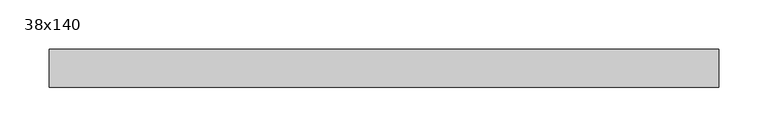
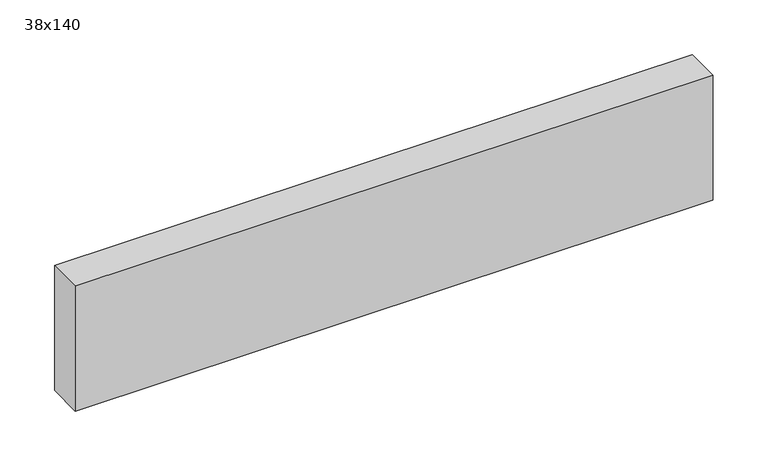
"""IFC4 building model written with IfcOpenShell, lengths in millimetres: beam geometry, Graded Timber : 38x140."""

from ifc_helpers import new_model, si_unit, frame, origin, place, context, project, spatial, polyline, outline, extrude, source, transform, mapped, element, save


def beam_38x140_33d01199(model_context):
    return source(origin(), model_context, "Body", "SweptSolid", [
        extrude(outline(polyline([(393.3981133, 19.0), (393.3981133, -19.0), (-282.5, -19.0), (-282.5, 19.0), (393.3981133, 19.0)])), frame((0.0, 0.0, -70.0), z_axis=(0.0, 0.0, 1.0), x_axis=(1.0, 0.0, 0.0)), (0.0, 0.0, 1.0), 140.0),
    ])


if __name__ == "__main__":
    model = new_model("IFC4")
    model_context = context("Model", 3, world=origin())
    ifc_project = project(units=[si_unit("LENGTHUNIT", "METRE", prefix="MILLI")], contexts=[model_context])
    site = spatial("IfcSite", under=ifc_project)
    building = spatial("IfcBuilding", under=site)
    placement = place(None, origin())
    beam_38x140_shape = beam_38x140_33d01199(model_context)
    element("IfcBeam", 1, ObjectType="Graded Timber : 38x140", at=placement, inside=building, context=model_context, shape_type="MappedRepresentation", body=[
        mapped(beam_38x140_shape, transform((0.0, 0.0, 0.0), x_axis=(1.0, 0.0, 0.0), y_axis=(0.0, 1.0, 0.0), z_axis=(0.0, 0.0, 1.0))),
    ])
    save(model, "model.ifc")
